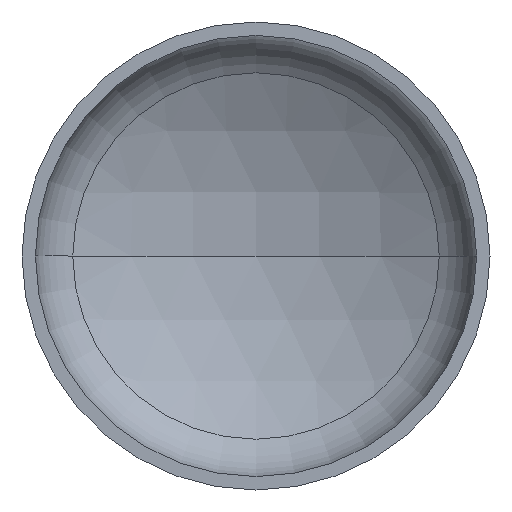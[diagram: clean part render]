
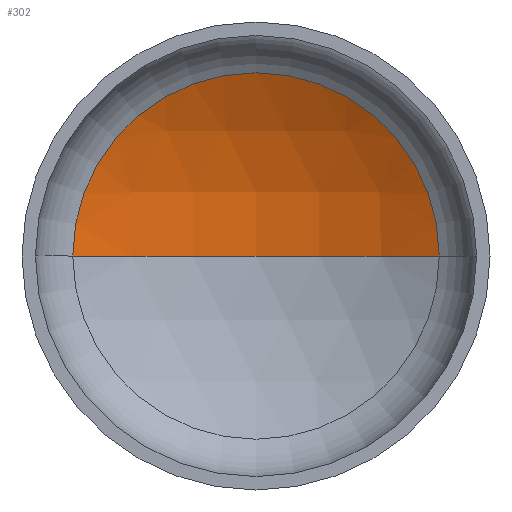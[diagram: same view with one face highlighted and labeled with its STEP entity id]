
A CAD part, front view. The second image highlights one B-rep face of the part: STEP entity #302.
In plain terms, the highlighted spherical face has radius 640 mm.
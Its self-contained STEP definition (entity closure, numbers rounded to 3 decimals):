
#4 = DIRECTION ( 'NONE',  ( 0., 0., -1. ) ) ;
#5 = AXIS2_PLACEMENT_3D ( 'NONE', #395, #376, #133 ) ;
#17 = EDGE_LOOP ( 'NONE', ( #108, #123, #129 ) ) ;
#22 = AXIS2_PLACEMENT_3D ( 'NONE', #360, #228, #385 ) ;
#25 = AXIS2_PLACEMENT_3D ( 'NONE', #148, #4, #396 ) ;
#33 = AXIS2_PLACEMENT_3D ( 'NONE', #200, #176, #337 ) ;
#52 = VERTEX_POINT ( 'NONE', #222 ) ;
#95 = EDGE_CURVE ( 'NONE', #97, #329, #117, .T. ) ;
#96 = EDGE_CURVE ( 'NONE', #52, #97, #307, .T. ) ;
#97 = VERTEX_POINT ( 'NONE', #368 ) ;
#98 = EDGE_CURVE ( 'NONE', #52, #329, #372, .T. ) ;
#108 = ORIENTED_EDGE ( 'NONE', *, *, #98, .F. ) ;
#117 = CIRCLE ( 'NONE', #33, 313.165 ) ;
#123 = ORIENTED_EDGE ( 'NONE', *, *, #96, .T. ) ;
#129 = ORIENTED_EDGE ( 'NONE', *, *, #95, .T. ) ;
#133 = DIRECTION ( 'NONE',  ( -1., 0., 0. ) ) ;
#148 = CARTESIAN_POINT ( 'NONE',  ( 0., -379.134, 0. ) ) ;
#176 = DIRECTION ( 'NONE',  ( 0., -1., 0. ) ) ;
#200 = CARTESIAN_POINT ( 'NONE',  ( 0., 179.013, 0. ) ) ;
#222 = CARTESIAN_POINT ( 'NONE',  ( 0., 260.866, 0. ) ) ;
#228 = DIRECTION ( 'NONE',  ( 0., 0., 1. ) ) ;
#288 = SPHERICAL_SURFACE ( 'NONE', #5, 640. ) ;
#291 = CARTESIAN_POINT ( 'NONE',  ( -313.165, 179.013, 0. ) ) ;
#302 = ADVANCED_FACE ( 'NONE', ( #405 ), #288, .F. ) ;
#307 = CIRCLE ( 'NONE', #25, 640. ) ;
#329 = VERTEX_POINT ( 'NONE', #291 ) ;
#337 = DIRECTION ( 'NONE',  ( 1., 0., 0. ) ) ;
#360 = CARTESIAN_POINT ( 'NONE',  ( 0., -379.134, 0. ) ) ;
#368 = CARTESIAN_POINT ( 'NONE',  ( 313.165, 179.013, 0. ) ) ;
#372 = CIRCLE ( 'NONE', #22, 640. ) ;
#376 = DIRECTION ( 'NONE',  ( 0., 0., -1. ) ) ;
#385 = DIRECTION ( 'NONE',  ( 1., 0., 0. ) ) ;
#395 = CARTESIAN_POINT ( 'NONE',  ( 0., -379.134, 0. ) ) ;
#396 = DIRECTION ( 'NONE',  ( -1., 0., 0. ) ) ;
#405 = FACE_OUTER_BOUND ( 'NONE', #17, .T. ) ;
